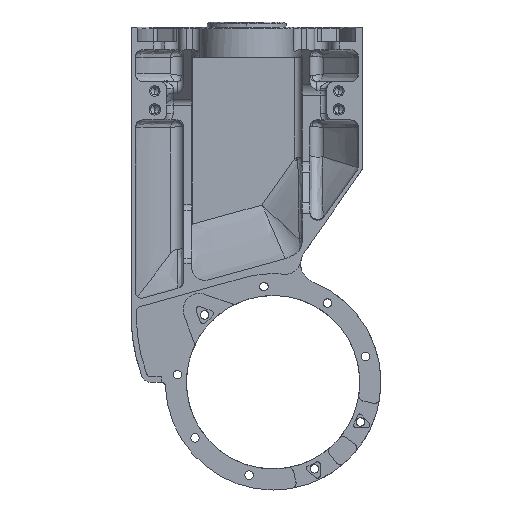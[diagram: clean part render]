
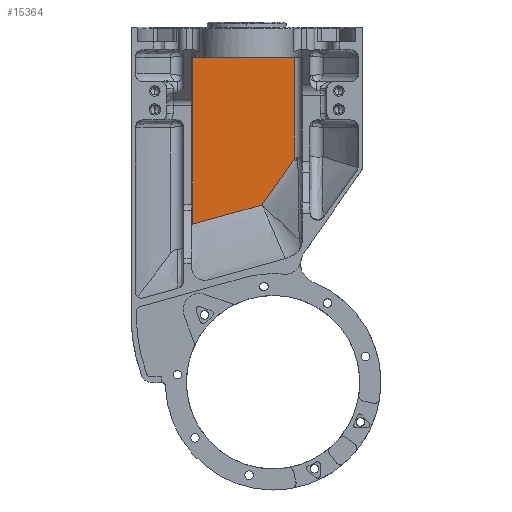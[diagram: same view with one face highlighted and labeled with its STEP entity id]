
A CAD part, left-side view. The second image highlights one B-rep face of the part: STEP entity #15364.
In plain terms, the highlighted planar face has unit normal (-1, 0, 0).
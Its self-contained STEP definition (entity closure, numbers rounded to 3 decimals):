
#3827=CARTESIAN_POINT('',(-170.5,-0.791,135.403));
#3903=DIRECTION('',(0.,0.,1.));
#3904=VECTOR('',#3903,38.661);
#3905=CARTESIAN_POINT('',(-170.5,-13.,152.839));
#3906=LINE('',#3905,#3904);
#3911=DIRECTION('',(0.,-1.,0.));
#3912=VECTOR('',#3911,38.5);
#3913=CARTESIAN_POINT('',(-170.5,25.5,191.5));
#3914=LINE('',#3913,#3912);
#3915=DIRECTION('',(0.,0.574,-0.819));
#3916=VECTOR('',#3915,21.286);
#3917=CARTESIAN_POINT('',(-170.5,-13.,152.839));
#3918=LINE('',#3917,#3916);
#3919=DIRECTION('',(0.,0.964,-0.267));
#3920=VECTOR('',#3919,27.285);
#3921=CARTESIAN_POINT('',(-170.5,-0.791,135.403));
#3922=LINE('',#3921,#3920);
#4074=DIRECTION('',(0.,0.,-1.));
#4075=VECTOR('',#4074,63.393);
#4076=CARTESIAN_POINT('',(-170.5,25.5,191.5));
#4077=LINE('',#4076,#4075);
#8181=VERTEX_POINT('',#3827);
#8186=CARTESIAN_POINT('',(-170.5,-13.,152.839));
#8187=VERTEX_POINT('',#8186);
#8189=CARTESIAN_POINT('',(-170.5,-13.,191.5));
#8190=VERTEX_POINT('',#8189);
#8191=CARTESIAN_POINT('',(-170.5,25.5,191.5));
#8192=VERTEX_POINT('',#8191);
#8193=CARTESIAN_POINT('',(-170.5,25.5,128.107));
#8194=VERTEX_POINT('',#8193);
#15350=CARTESIAN_POINT('',(-170.5,-17.,203.5));
#15351=DIRECTION('',(-1.,0.,0.));
#15352=DIRECTION('',(0.,1.,0.));
#15353=AXIS2_PLACEMENT_3D('',#15350,#15351,#15352);
#15354=PLANE('',#15353);
#15355=ORIENTED_EDGE('',*,*,#13435,.T.);
#15356=ORIENTED_EDGE('',*,*,#14892,.F.);
#15357=ORIENTED_EDGE('',*,*,#14185,.T.);
#15359=ORIENTED_EDGE('',*,*,#15358,.T.);
#15361=ORIENTED_EDGE('',*,*,#15360,.F.);
#15362=EDGE_LOOP('',(#15355,#15356,#15357,#15359,#15361));
#15363=FACE_OUTER_BOUND('',#15362,.F.);
#15364=ADVANCED_FACE('',(#15363),#15354,.T.);
#13435=EDGE_CURVE('',#8192,#8190,#3914,.T.);
#14185=EDGE_CURVE('',#8187,#8181,#3918,.T.);
#14892=EDGE_CURVE('',#8187,#8190,#3906,.T.);
#15358=EDGE_CURVE('',#8181,#8194,#3922,.T.);
#15360=EDGE_CURVE('',#8192,#8194,#4077,.T.);
